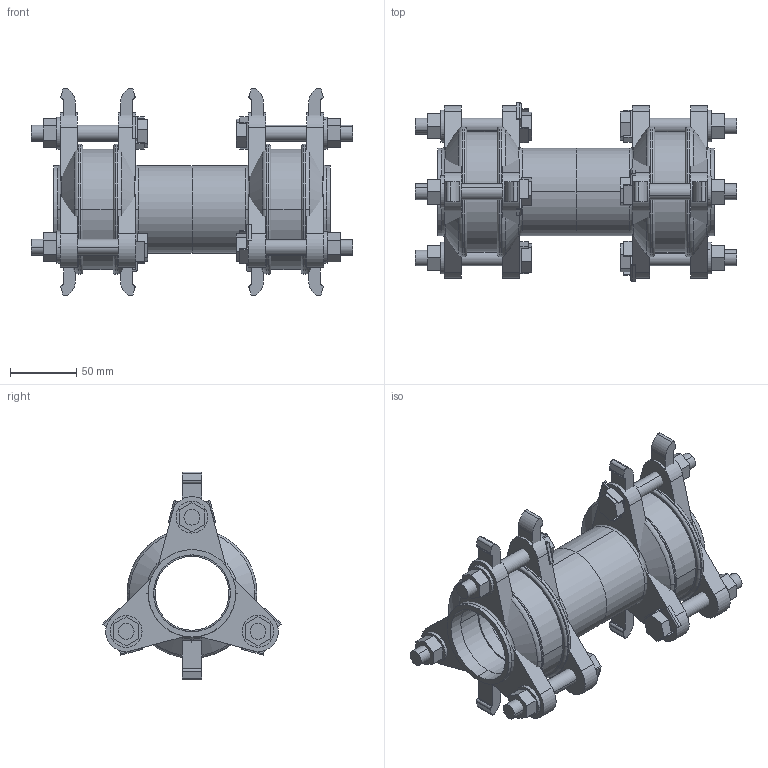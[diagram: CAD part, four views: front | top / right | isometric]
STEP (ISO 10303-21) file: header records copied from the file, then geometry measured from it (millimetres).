
FILE_DESCRIPTION(('STEP AP214'),'1');
FILE_NAME('MJ000027 DN 40.STP','2015-02-06T10:54:15',(' '),(' '),'Spatial InterOp 3D',' ',' ');
FILE_SCHEMA(('automotive_design'));
Length unit declared in the file: millimetre
Products named in the file (66): 3D-Objekt
Bounding box: 243 x 134.67 x 157 mm (x, y, z)
Volume: 846780.1 mm3; surface area: 308649.1 mm2
Topology: 66 solids, 66 shells, 526 faces, 1178 edges, 784 vertices
Faces by surface type: plane 352, cylinder 134, torus 24, cone 16
Entity records: 20426 total; most frequent: DIRECTION 2730, CARTESIAN_POINT 2554, ORIENTED_EDGE 2356, EDGE_CURVE 1178, AXIS2_PLACEMENT_3D 960, LINE 810, VECTOR 810, VERTEX_POINT 784
